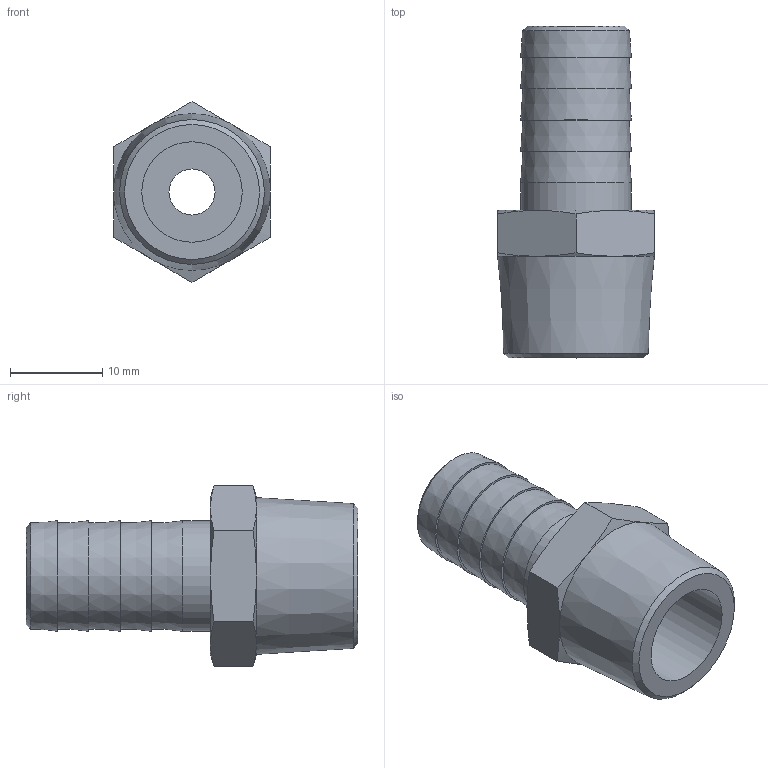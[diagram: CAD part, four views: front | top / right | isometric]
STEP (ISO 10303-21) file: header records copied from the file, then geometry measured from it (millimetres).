
FILE_DESCRIPTION(/* description */ (''),/* implementation_level */ '2;1');
FILE_NAME(/* name */ 'BXH09 12B3 00.stp',/* time_stamp */ '2026-06-22T11:00:30+02:00',/* author */ ('freju'),/* organization */ (''),/* preprocessor_version */ 'ST-DEVELOPER v20.1',/* originating_system */ 'Autodesk Inventor 2026',/* authorisation */ '');
FILE_SCHEMA (('AUTOMOTIVE_DESIGN { 1 0 10303 214 3 1 1 }'));
Length unit declared in the file: millimetre
Products named in the file (1): BXH09 12B3 00
Bounding box: 17 x 36 x 19.63 mm (x, y, z)
Volume: 4097.2 mm3; surface area: 2814.8 mm2
Topology: 1 solids, 1 shells, 37 faces, 74 edges, 45 vertices
Faces by surface type: cone 20, plane 14, cylinder 3
Full cylindrical faces by diameter (mm): 5 x1, 10.9 x1, 12 x1
Entity records: 980 total; most frequent: CARTESIAN_POINT 205, DIRECTION 159, ORIENTED_EDGE 148, EDGE_CURVE 74, AXIS2_PLACEMENT_3D 71, EDGE_LOOP 45, VERTEX_POINT 45, FACE_OUTER_BOUND 37
